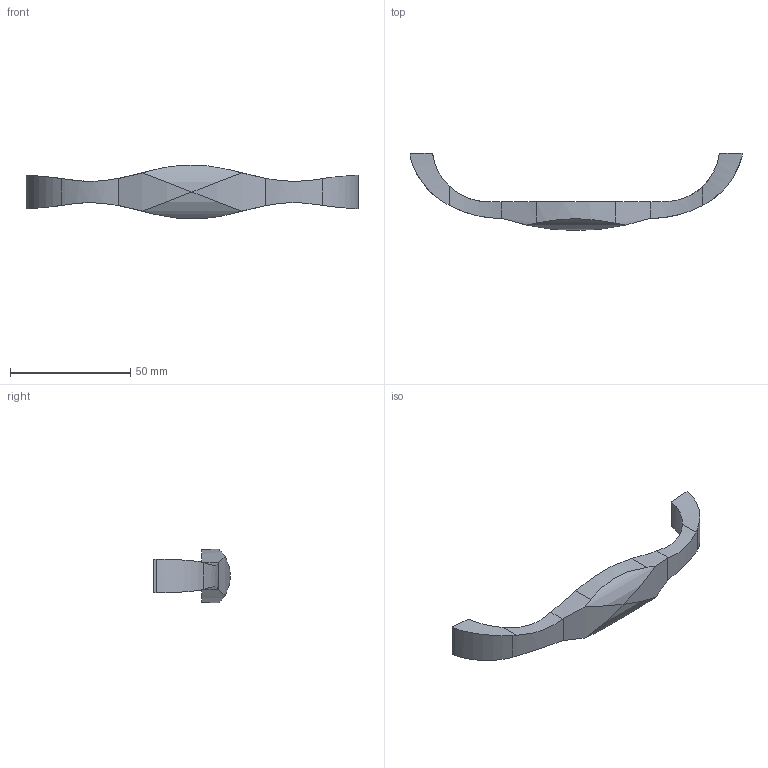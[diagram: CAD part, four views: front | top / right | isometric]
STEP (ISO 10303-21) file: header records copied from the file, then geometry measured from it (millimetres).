
FILE_DESCRIPTION( ( 'STEP AP214' ), '1' );
FILE_NAME( 'C:/Users/swati/Desktop/buena/9208057/9208057.stp', ' ', ( ' ' ), ( ' ' ), 'PSStep 15.0.47', 'PARTsolutions', ' ' );
FILE_SCHEMA( ( 'AUTOMOTIVE_DESIGN { 1 0 10303 214 1 1 1 1 }' ) );
Length unit declared in the file: millimetre
Products named in the file (2): 95 ; _
Assembly tree (1 placements, depth 2):
  95 
    _
Bounding box: 138 x 32 x 22.29 mm (x, y, z)
Volume: 18080.9 mm3; surface area: 7003.9 mm2
Topology: 1 solids, 1 shells, 38 faces, 101 edges, 67 vertices
Faces by surface type: cylinder 28, plane 10
Full cylindrical faces by diameter (mm): 4 x2
Entity records: 1775 total; most frequent: CARTESIAN_POINT 558, ORIENTED_EDGE 198, DIRECTION 155, EDGE_CURVE 99, VERTEX_POINT 67, AXIS2_PLACEMENT_3D 58, EDGE_LOOP 42, B_SPLINE_CURVE_WITH_KNOTS 42
